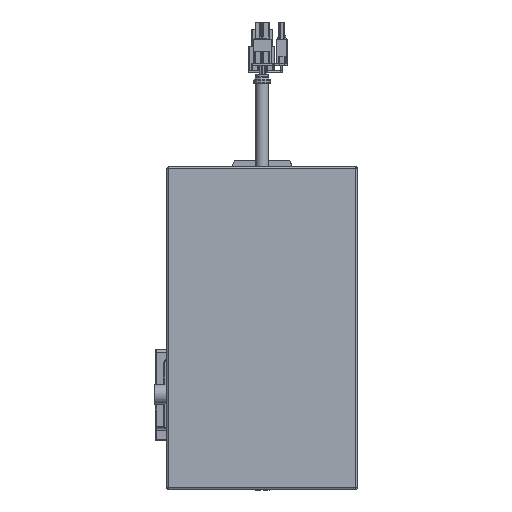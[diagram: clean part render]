
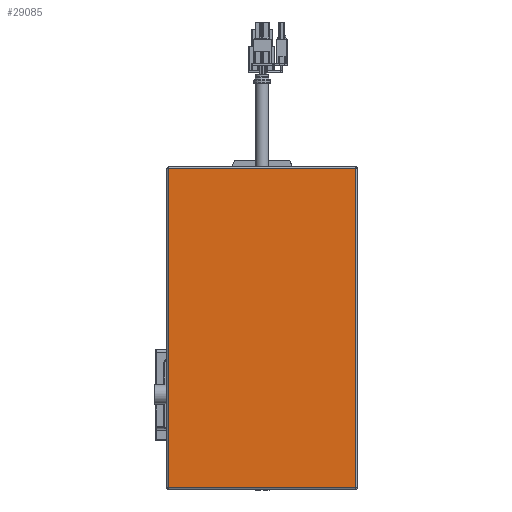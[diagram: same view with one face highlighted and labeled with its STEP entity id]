
A CAD part, top view. The second image highlights one B-rep face of the part: STEP entity #29085.
In plain terms, the highlighted planar face has unit normal (0, 0, 1).
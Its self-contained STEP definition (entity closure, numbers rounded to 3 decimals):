
#29046=CARTESIAN_POINT('',(-36.,36.,514.5));
#29047=DIRECTION('',(0.,1.,0.));
#29048=DIRECTION('',(0.,-0.,1.));
#29049=AXIS2_PLACEMENT_3D('',#29046,#29048,#29047);
#29050=PLANE('',#29049);
#29051=CARTESIAN_POINT('',(51.,-51.,514.5));
#29052=VERTEX_POINT('',#29051);
#29053=CARTESIAN_POINT('',(51.,123.,514.5));
#29054=VERTEX_POINT('',#29053);
#29055=CARTESIAN_POINT('',(51.,-51.,514.5));
#29056=DIRECTION('',(0.,1.,0.));
#29057=VECTOR('',#29056,174.);
#29058=LINE('',#29055,#29057);
#29059=EDGE_CURVE('',#29052,#29054,#29058,.T.);
#29060=ORIENTED_EDGE('E4010',*,*,#29059,.T.);
#29061=CARTESIAN_POINT('',(-51.,123.,514.5));
#29062=VERTEX_POINT('',#29061);
#29063=CARTESIAN_POINT('',(51.,123.,514.5));
#29064=DIRECTION('',(-1.,0.,0.));
#29065=VECTOR('',#29064,102.);
#29066=LINE('',#29063,#29065);
#29067=EDGE_CURVE('',#29054,#29062,#29066,.T.);
#29068=ORIENTED_EDGE('E4011',*,*,#29067,.T.);
#29069=CARTESIAN_POINT('',(-51.,-51.,514.5));
#29070=VERTEX_POINT('',#29069);
#29071=CARTESIAN_POINT('',(-51.,123.,514.5));
#29072=DIRECTION('',(0.,-1.,0.));
#29073=VECTOR('',#29072,174.);
#29074=LINE('',#29071,#29073);
#29075=EDGE_CURVE('',#29062,#29070,#29074,.T.);
#29076=ORIENTED_EDGE('E4012',*,*,#29075,.T.);
#29077=CARTESIAN_POINT('',(-51.,-51.,514.5));
#29078=DIRECTION('',(1.,0.,0.));
#29079=VECTOR('',#29078,102.);
#29080=LINE('',#29077,#29079);
#29081=EDGE_CURVE('',#29070,#29052,#29080,.T.);
#29082=ORIENTED_EDGE('E4013',*,*,#29081,.T.);
#29083=EDGE_LOOP('',(#29060,#29068,#29076,#29082));
#29084=FACE_OUTER_BOUND('',#29083,.T.);
#29085=ADVANCED_FACE('F1549',(#29084),#29050,.T.);
